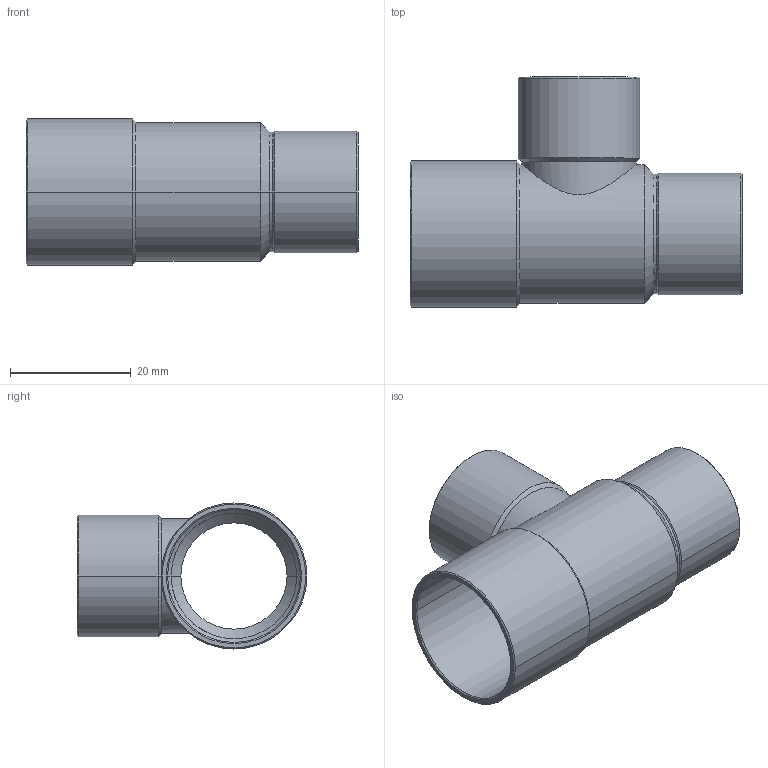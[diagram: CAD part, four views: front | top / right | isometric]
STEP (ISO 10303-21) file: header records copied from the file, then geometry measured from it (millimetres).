
FILE_DESCRIPTION((''),'2;1');
FILE_NAME('P:\Bouwmaten\z-maattekeningen 3D\5000\5130\5130221818.stp','2005-10-26T11:53:48',('Kris'),(''),'Autodesk Inventor 8','Autodesk Inventor 8','');
FILE_SCHEMA(('AUTOMOTIVE_DESIGN { 1 0 10303 214 1 1 1 1 }'));
Length unit declared in the file: millimetre
Products named in the file (1): 5130221818
Bounding box: 55 x 38.1 x 24.2 mm (x, y, z)
Volume: 4894.7 mm3; surface area: 9225.8 mm2
Topology: 1 solids, 1 shells, 55 faces, 116 edges, 62 vertices
Faces by surface type: cone 28, cylinder 24, plane 3
Entity records: 1543 total; most frequent: CARTESIAN_POINT 320, DIRECTION 278, ORIENTED_EDGE 232, EDGE_CURVE 116, AXIS2_PLACEMENT_3D 112, VERTEX_POINT 62, EDGE_LOOP 58, CIRCLE 56
